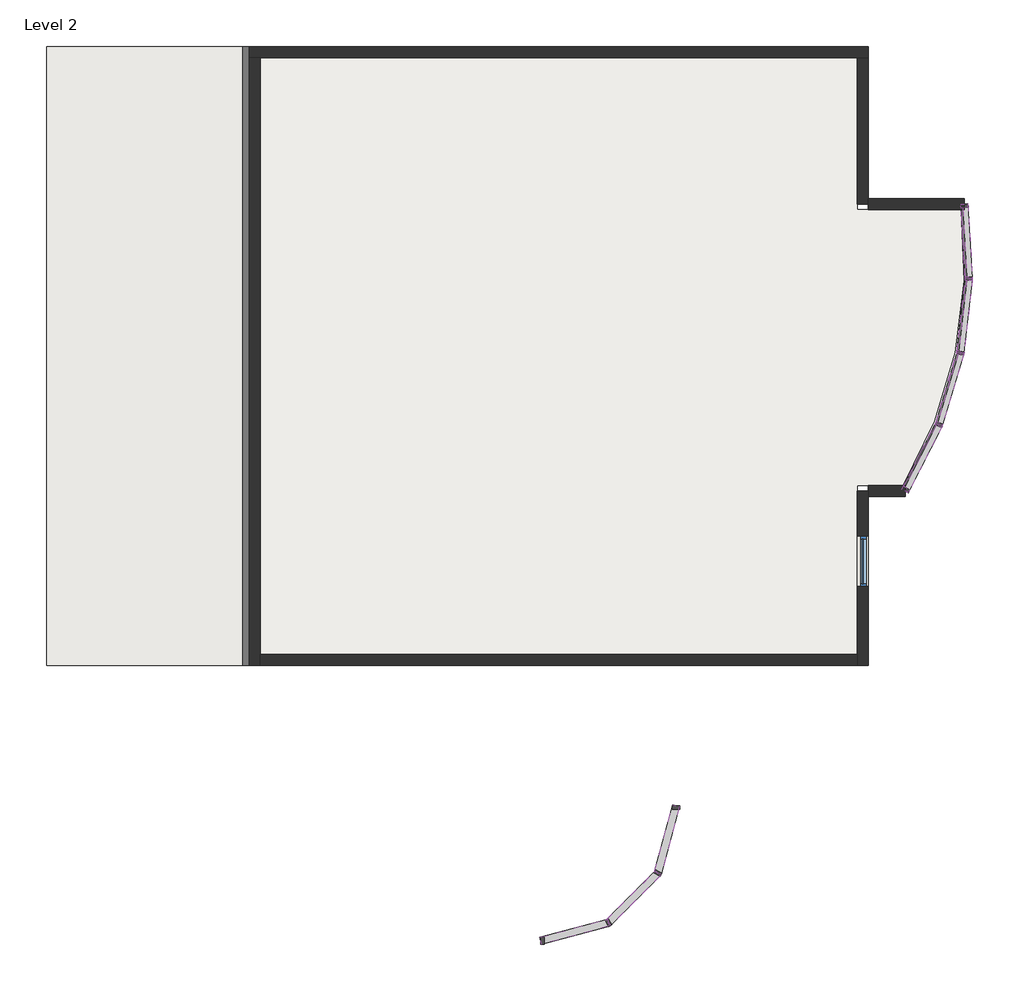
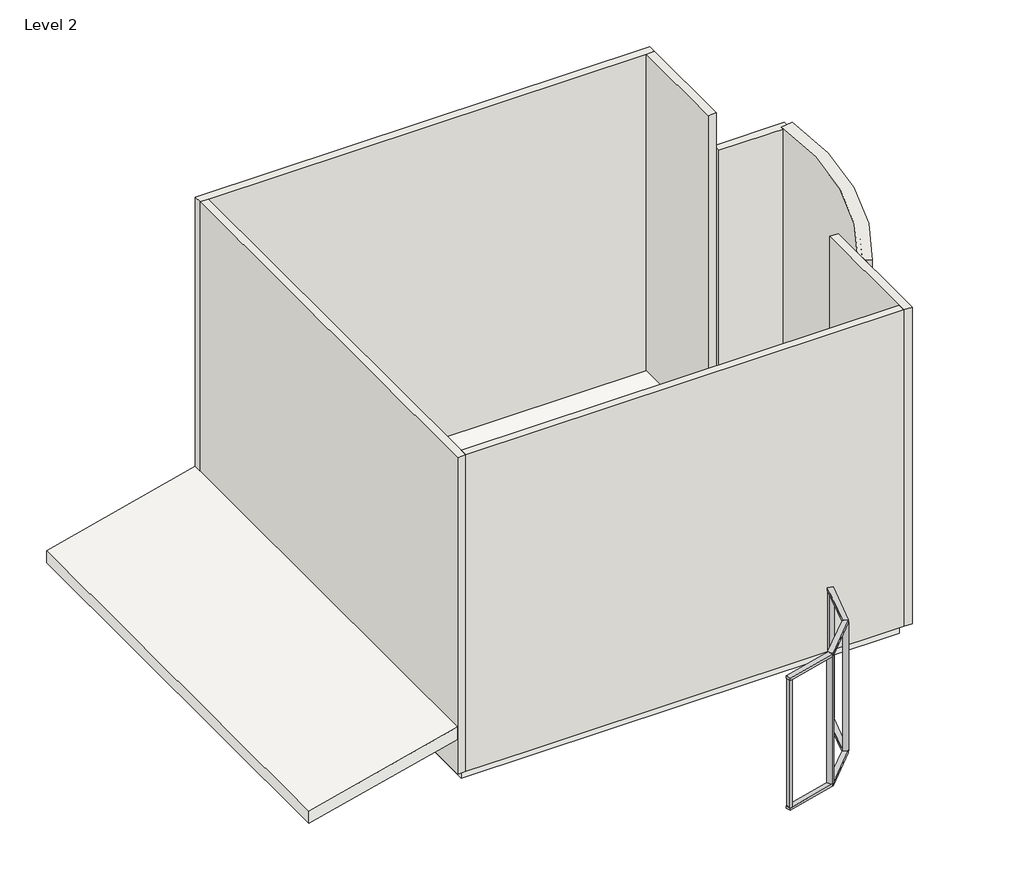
# One storey: 28 members, 12 plates, 8 walls, 1 roof, 1 slab, 1 window.
"""IFC4 building model written with IfcOpenShell, lengths in millimetres."""

from ifc_helpers import new_model, si_unit, point, frame, frame_2d, origin, place, context, project, spatial, polyline, circle_curve, trimmed, segment, composite_curve, outline, extrude, faceted_brep, transform, mapped, element, save
from components import glazed_panel_glazed_panel_96306bcd, glazed_panel_glazed_panel_54592845, glazed_panel_glazed_panel_b55688f1, glazed_panel_glazed_panel_d834ab8b, fixed_552a8660

model = new_model("IFC4")

# Units and contexts
model_context = context("Model", 3, world=origin())
ifc_project = project(units=[si_unit("LENGTHUNIT", "METRE", prefix="MILLI")], contexts=[model_context])

# Site, building, storey
site = spatial("IfcSite", under=ifc_project)
building = spatial("IfcBuilding", under=site)
storey = spatial("IfcBuildingStorey", under=building, Name="Level 2", Elevation=3657.6)

# Members
placement = place(None, origin())
element("IfcMember", 1, ObjectType="Rectangular Mullion1 : 2.5\" x 5\" rectangular", at=placement, inside=storey, context=model_context, shape_type="SweptSolid", body=[
    extrude(outline(polyline([(-113122.4790603, 32641.1481071), (-113245.1516403, 32674.0181259), (-112918.4679848, 33893.2181259), (-112795.7954049, 33860.3481071), (-113122.4790603, 32641.1481071)])), frame((0.0, 0.0, 3916.6696833), z_axis=(0.0, 0.0, 1.0), x_axis=(1.0, 0.0, 0.0)), (0.0, 0.0, 1.0), 63.5),
])
element("IfcMember", 2, ObjectType="Rectangular Mullion1 : 2.5\" x 5\" rectangular", at=placement, inside=storey, context=model_context, shape_type="SweptSolid", body=[
    extrude(outline(polyline([(-114031.4304143, 31720.1654913), (-114121.2329755, 31809.9680525), (-113228.7166309, 32702.4843971), (-113138.9140697, 32612.6818359), (-114031.4304143, 31720.1654913)])), frame((0.0, 0.0, 3916.6696833), z_axis=(0.0, 0.0, 1.0), x_axis=(1.0, 0.0, 0.0)), (0.0, 0.0, 1.0), 63.5),
])
element("IfcMember", 3, ObjectType="Rectangular Mullion1 : 2.5\" x 5\" rectangular", at=placement, inside=storey, context=model_context, shape_type="SweptSolid", body=[
    extrude(outline(polyline([(-115279.0966855, 31377.0468265), (-115311.9667042, 31499.7194065), (-114092.7667042, 31826.4030619), (-114059.8966855, 31703.7304819), (-115279.0966855, 31377.0468265)])), frame((0.0, 0.0, 3916.6696833), z_axis=(0.0, 0.0, 1.0), x_axis=(1.0, 0.0, 0.0)), (0.0, 0.0, 1.0), 63.5),
])
element("IfcMember", 4, ObjectType="Rectangular Mullion1 : 2.5\" x 5\" rectangular", at=placement, inside=storey, context=model_context, shape_type="SweptSolid", body=[
    extrude(outline(polyline([(-113122.4790603, 32641.1481071), (-113245.1516403, 32674.0181259), (-112918.4679848, 33893.2181259), (-112795.7954049, 33860.3481071), (-113122.4790603, 32641.1481071)])), frame((0.0, 0.0, 7294.7440597), z_axis=(0.0, 0.0, 1.0), x_axis=(1.0, 0.0, 0.0)), (0.0, 0.0, 1.0), 63.5),
])
element("IfcMember", 5, ObjectType="Rectangular Mullion1 : 2.5\" x 5\" rectangular", at=placement, inside=storey, context=model_context, shape_type="SweptSolid", body=[
    extrude(outline(polyline([(-114031.4304143, 31720.1654913), (-114121.2329755, 31809.9680525), (-113228.7166309, 32702.4843971), (-113138.9140697, 32612.6818359), (-114031.4304143, 31720.1654913)])), frame((0.0, 0.0, 7294.7440597), z_axis=(0.0, 0.0, 1.0), x_axis=(1.0, 0.0, 0.0)), (0.0, 0.0, 1.0), 63.5),
])
element("IfcMember", 6, ObjectType="Rectangular Mullion1 : 2.5\" x 5\" rectangular", at=placement, inside=storey, context=model_context, shape_type="SweptSolid", body=[
    extrude(outline(polyline([(-115279.0966855, 31377.0468265), (-115311.9667042, 31499.7194065), (-114092.7667042, 31826.4030619), (-114059.8966855, 31703.7304819), (-115279.0966855, 31377.0468265)])), frame((0.0, 0.0, 7294.7440597), z_axis=(0.0, 0.0, 1.0), x_axis=(1.0, 0.0, 0.0)), (0.0, 0.0, 1.0), 63.5),
])
element("IfcMember", 7, ObjectType="Rectangular Mullion1 : 2.5\" x 5\" rectangular", at=placement, inside=storey, context=model_context, shape_type="SweptSolid", body=[
    extrude(outline(polyline([(-112793.6316949, 33813.2831165), (-112920.6316949, 33813.2831165), (-112920.6316949, 33876.7831165), (-112793.6316949, 33876.7831165), (-112793.6316949, 33813.2831165)])), frame((0.0, 0.0, 3980.1696833), z_axis=(0.0, 0.0, 1.0), x_axis=(1.0, 0.0, 0.0)), (0.0, 0.0, 1.0), 3314.5743765),
])
element("IfcMember", 8, ObjectType="Rectangular Mullion1 : 2.5\" x 5\" rectangular", at=placement, inside=storey, context=model_context, shape_type="SweptSolid", body=[
    extrude(outline(polyline([(-113144.6977371, 32598.3368099), (-113254.6829634, 32661.8368099), (-113222.9329634, 32716.8294231), (-113112.9477371, 32653.3294231), (-113144.6977371, 32598.3368099)])), frame((0.0, 0.0, 3980.1696833), z_axis=(0.0, 0.0, 1.0), x_axis=(1.0, 0.0, 0.0)), (0.0, 0.0, 1.0), 3314.5743765),
])
element("IfcMember", 9, ObjectType="Rectangular Mullion1 : 2.5\" x 5\" rectangular", at=placement, inside=storey, context=model_context, shape_type="SweptSolid", body=[
    extrude(outline(polyline([(-114072.0780014, 31694.1991588), (-114135.5780014, 31804.1843851), (-114080.5853883, 31835.9343851), (-114017.0853883, 31725.9491588), (-114072.0780014, 31694.1991588)])), frame((0.0, 0.0, 3980.1696833), z_axis=(0.0, 0.0, 1.0), x_axis=(1.0, 0.0, 0.0)), (0.0, 0.0, 1.0), 3314.5743765),
])
element("IfcMember", 10, ObjectType="Rectangular Mullion1 : 2.5\" x 5\" rectangular", at=placement, inside=storey, context=model_context, shape_type="SweptSolid", body=[
    extrude(outline(polyline([(-115295.5316949, 31374.8831165), (-115295.5316949, 31501.8831165), (-115232.0316949, 31501.8831165), (-115232.0316949, 31374.8831165), (-115295.5316949, 31374.8831165)])), frame((0.0, 0.0, 3980.1696833), z_axis=(0.0, 0.0, 1.0), x_axis=(1.0, 0.0, 0.0)), (0.0, 0.0, 1.0), 3314.5743765),
])
element("IfcMember", 11, ObjectType="Rectangular Mullion1 : 2.5\" x 5\" rectangular", at=placement, inside=storey, context=model_context, shape_type="SweptSolid", body=[
    extrude(outline(polyline([(-108168.5008798, 40790.5335518), (-108055.292729, 40732.9756281), (-108666.7692055, 39530.2894162), (-108779.9773564, 39587.8473399), (-108168.5008798, 40790.5335518)])), frame((0.0, 0.0, 3657.6), z_axis=(0.0, 0.0, 1.0), x_axis=(1.0, 0.0, 0.0)), (0.0, 0.0, 1.0), 63.5),
])
element("IfcMember", 12, ObjectType="Rectangular Mullion1 : 2.5\" x 5\" rectangular", at=placement, inside=storey, context=model_context, shape_type="SweptSolid", body=[
    extrude(outline(polyline([(-107784.1162661, 42072.0788911), (-107662.497725, 42035.5011593), (-108051.0875339, 40743.465724), (-108172.706075, 40780.0434558), (-107784.1162661, 42072.0788911)])), frame((0.0, 0.0, 3657.6), z_axis=(0.0, 0.0, 1.0), x_axis=(1.0, 0.0, 0.0)), (0.0, 0.0, 1.0), 63.5),
])
element("IfcMember", 13, ObjectType="Rectangular Mullion1 : 2.5\" x 5\" rectangular", at=placement, inside=storey, context=model_context, shape_type="SweptSolid", body=[
    extrude(outline(polyline([(-107633.001115, 43401.4675472), (-107506.8245794, 43387.0286456), (-107660.2187278, 42046.5705744), (-107786.3952634, 42061.009476), (-107633.001115, 43401.4675472)])), frame((0.0, 0.0, 3657.6), z_axis=(0.0, 0.0, 1.0), x_axis=(1.0, 0.0, 0.0)), (0.0, 0.0, 1.0), 63.5),
])
element("IfcMember", 14, ObjectType="Rectangular Mullion1 : 2.5\" x 5\" rectangular", at=placement, inside=storey, context=model_context, shape_type="SweptSolid", body=[
    extrude(outline(polyline([(-107719.9421584, 44736.58973), (-107593.2044035, 44744.7470261), (-107506.5439697, 43398.3267444), (-107633.2817247, 43390.1694484), (-107719.9421584, 44736.58973)])), frame((0.0, 0.0, 3657.6), z_axis=(0.0, 0.0, 1.0), x_axis=(1.0, 0.0, 0.0)), (0.0, 0.0, 1.0), 63.5),
])
element("IfcMember", 15, ObjectType="Rectangular Mullion1 : 2.5\" x 5\" rectangular", at=placement, inside=storey, context=model_context, shape_type="SweptSolid", body=[
    extrude(outline(polyline([(-108168.5008798, 40790.5335518), (-108055.292729, 40732.9756281), (-108666.7692055, 39530.2894162), (-108779.9773564, 39587.8473399), (-108168.5008798, 40790.5335518)])), frame((0.0, 0.0, 6064.25), z_axis=(0.0, 0.0, 1.0), x_axis=(1.0, 0.0, 0.0)), (0.0, 0.0, 1.0), 63.5),
])
element("IfcMember", 16, ObjectType="Rectangular Mullion1 : 2.5\" x 5\" rectangular", at=placement, inside=storey, context=model_context, shape_type="SweptSolid", body=[
    extrude(outline(polyline([(-107784.1162661, 42072.0788911), (-107662.497725, 42035.5011593), (-108051.0875339, 40743.465724), (-108172.706075, 40780.0434558), (-107784.1162661, 42072.0788911)])), frame((0.0, 0.0, 6064.25), z_axis=(0.0, 0.0, 1.0), x_axis=(1.0, 0.0, 0.0)), (0.0, 0.0, 1.0), 63.5),
])
element("IfcMember", 17, ObjectType="Rectangular Mullion1 : 2.5\" x 5\" rectangular", at=placement, inside=storey, context=model_context, shape_type="SweptSolid", body=[
    extrude(outline(polyline([(-107633.001115, 43401.4675472), (-107506.8245794, 43387.0286456), (-107660.2187278, 42046.5705744), (-107786.3952634, 42061.009476), (-107633.001115, 43401.4675472)])), frame((0.0, 0.0, 6064.25), z_axis=(0.0, 0.0, 1.0), x_axis=(1.0, 0.0, 0.0)), (0.0, 0.0, 1.0), 63.5),
])
element("IfcMember", 18, ObjectType="Rectangular Mullion1 : 2.5\" x 5\" rectangular", at=placement, inside=storey, context=model_context, shape_type="SweptSolid", body=[
    extrude(outline(polyline([(-107719.9421584, 44736.58973), (-107593.2044035, 44744.7470261), (-107506.5439697, 43398.3267444), (-107633.2817247, 43390.1694484), (-107719.9421584, 44736.58973)])), frame((0.0, 0.0, 6064.25), z_axis=(0.0, 0.0, 1.0), x_axis=(1.0, 0.0, 0.0)), (0.0, 0.0, 1.0), 63.5),
])
element("IfcMember", 19, ObjectType="Rectangular Mullion1 : 2.5\" x 5\" rectangular", at=placement, inside=storey, context=model_context, shape_type="SweptSolid", body=[
    extrude(outline(polyline([(-108743.4898641, 39646.5887933), (-108635.8528657, 39579.1849612), (-108669.5547817, 39525.366462), (-108777.1917802, 39592.7702941), (-108743.4898641, 39646.5887933)])), frame((0.0, 0.0, 3721.1), z_axis=(0.0, 0.0, 1.0), x_axis=(1.0, 0.0, 0.0)), (0.0, 0.0, 1.0), 2343.15),
])
element("IfcMember", 20, ObjectType="Rectangular Mullion1 : 2.5\" x 5\" rectangular", at=placement, inside=storey, context=model_context, shape_type="SweptSolid", body=[
    extrude(outline(polyline([(-108743.4898641, 39646.5887933), (-108635.8528657, 39579.1849612), (-108669.5547817, 39525.366462), (-108777.1917802, 39592.7702941), (-108743.4898641, 39646.5887933)])), frame((0.0, 0.0, 6127.75), z_axis=(0.0, 0.0, 1.0), x_axis=(1.0, 0.0, 0.0)), (0.0, 0.0, 1.0), 2374.9),
])
element("IfcMember", 21, ObjectType="Rectangular Mullion1 : 2.5\" x 5\" rectangular", at=placement, inside=storey, context=model_context, shape_type="SweptSolid", body=[
    extrude(outline(polyline([(-108159.0234898, 40814.8524997), (-108041.1424654, 40767.5971923), (-108064.770119, 40708.6566801), (-108182.6511435, 40755.9119875), (-108159.0234898, 40814.8524997)])), frame((0.0, 0.0, 3721.1), z_axis=(0.0, 0.0, 1.0), x_axis=(1.0, 0.0, 0.0)), (0.0, 0.0, 1.0), 2343.15),
])
element("IfcMember", 22, ObjectType="Rectangular Mullion1 : 2.5\" x 5\" rectangular", at=placement, inside=storey, context=model_context, shape_type="SweptSolid", body=[
    extrude(outline(polyline([(-108159.0234898, 40814.8524997), (-108041.1424654, 40767.5971923), (-108064.770119, 40708.6566801), (-108182.6511435, 40755.9119875), (-108159.0234898, 40814.8524997)])), frame((0.0, 0.0, 6127.75), z_axis=(0.0, 0.0, 1.0), x_axis=(1.0, 0.0, 0.0)), (0.0, 0.0, 1.0), 2374.9),
])
element("IfcMember", 23, ObjectType="Rectangular Mullion1 : 2.5\" x 5\" rectangular", at=placement, inside=storey, context=model_context, shape_type="SweptSolid", body=[
    extrude(outline(polyline([(-107779.1000376, 42097.6927468), (-107654.7089931, 42072.0828258), (-107667.5139536, 42009.8873036), (-107791.9049981, 42035.4972245), (-107779.1000376, 42097.6927468)])), frame((0.0, 0.0, 3721.1), z_axis=(0.0, 0.0, 1.0), x_axis=(1.0, 0.0, 0.0)), (0.0, 0.0, 1.0), 2343.15),
])
element("IfcMember", 24, ObjectType="Rectangular Mullion1 : 2.5\" x 5\" rectangular", at=placement, inside=storey, context=model_context, shape_type="SweptSolid", body=[
    extrude(outline(polyline([(-107779.1000376, 42097.6927468), (-107654.7089931, 42072.0828258), (-107667.5139536, 42009.8873036), (-107791.9049981, 42035.4972245), (-107779.1000376, 42097.6927468)])), frame((0.0, 0.0, 6127.75), z_axis=(0.0, 0.0, 1.0), x_axis=(1.0, 0.0, 0.0)), (0.0, 0.0, 1.0), 2374.9),
])
element("IfcMember", 25, ObjectType="Rectangular Mullion1 : 2.5\" x 5\" rectangular", at=placement, inside=storey, context=model_context, shape_type="SweptSolid", body=[
    extrude(outline(polyline([(-107632.6049423, 43427.5649647), (-107505.6440955, 43424.4116515), (-107507.2207521, 43360.9312281), (-107634.1815989, 43364.0845413), (-107632.6049423, 43427.5649647)])), frame((0.0, 0.0, 3721.1), z_axis=(0.0, 0.0, 1.0), x_axis=(1.0, 0.0, 0.0)), (0.0, 0.0, 1.0), 2343.15),
])
element("IfcMember", 26, ObjectType="Rectangular Mullion1 : 2.5\" x 5\" rectangular", at=placement, inside=storey, context=model_context, shape_type="SweptSolid", body=[
    extrude(outline(polyline([(-107632.6049423, 43427.5649647), (-107505.6440955, 43424.4116515), (-107507.2207521, 43360.9312281), (-107634.1815989, 43364.0845413), (-107632.6049423, 43427.5649647)])), frame((0.0, 0.0, 6127.75), z_axis=(0.0, 0.0, 1.0), x_axis=(1.0, 0.0, 0.0)), (0.0, 0.0, 1.0), 2374.9),
])
element("IfcMember", 27, ObjectType="Rectangular Mullion1 : 2.5\" x 5\" rectangular", at=placement, inside=storey, context=model_context, shape_type="SweptSolid", body=[
    extrude(outline(polyline([(-107719.327796, 44730.9667885), (-107593.8187659, 44750.3699676), (-107584.1171763, 44687.6154525), (-107709.6262065, 44668.2122734), (-107719.327796, 44730.9667885)])), frame((0.0, 0.0, 3721.1), z_axis=(0.0, 0.0, 1.0), x_axis=(1.0, 0.0, 0.0)), (0.0, 0.0, 1.0), 2343.15),
])
element("IfcMember", 28, ObjectType="Rectangular Mullion1 : 2.5\" x 5\" rectangular", at=placement, inside=storey, context=model_context, shape_type="SweptSolid", body=[
    extrude(outline(polyline([(-107719.327796, 44730.9667885), (-107593.8187659, 44750.3699676), (-107584.1171763, 44687.6154525), (-107709.6262065, 44668.2122734), (-107719.327796, 44730.9667885)])), frame((0.0, 0.0, 6127.75), z_axis=(0.0, 0.0, 1.0), x_axis=(1.0, 0.0, 0.0)), (0.0, 0.0, 1.0), 2374.9),
])

# Plates
glazed_panel_glazed_panel_shape = glazed_panel_glazed_panel_96306bcd(model_context)
element("IfcPlate", 29, ObjectType="Glazed Panel : Glazed Panel", at=placement, inside=storey, context=model_context, shape_type="MappedRepresentation", body=[
    mapped(glazed_panel_glazed_panel_shape, transform((-108406.8345595, 40172.6685523, 3721.1), x_axis=(0.4513442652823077, 0.8923499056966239, 0.0), y_axis=(-0.8923499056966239, 0.4513442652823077, 0.0), z_axis=(0.0, 0.0, 1.0))),
])
element("IfcPlate", 30, ObjectType="Glazed Panel : Glazed Panel", at=placement, inside=storey, context=model_context, shape_type="MappedRepresentation", body=[
    mapped(glazed_panel_glazed_panel_shape, transform((-107608.1627568, 44051.9315944, 3721.1), x_axis=(-0.062140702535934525, 0.9980673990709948, 0.0), y_axis=(-0.9980673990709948, -0.062140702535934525, 0.0), z_axis=(0.0, 0.0, 1.0))),
])
element("IfcPlate", 31, ObjectType="Glazed Panel : Glazed Panel", at=placement, inside=storey, context=model_context, shape_type="MappedRepresentation", body=[
    mapped(glazed_panel_glazed_panel_shape, transform((-108406.8345595, 40172.6685523, 8566.15), x_axis=(0.4513442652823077, 0.8923499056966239, 0.0), y_axis=(-0.8923499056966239, 0.4513442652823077, 0.0), z_axis=(0.0, 0.0, 1.0))),
])
element("IfcPlate", 32, ObjectType="Glazed Panel : Glazed Panel", at=placement, inside=storey, context=model_context, shape_type="MappedRepresentation", body=[
    mapped(glazed_panel_glazed_panel_shape, transform((-107608.1627568, 44051.9315944, 8566.15), x_axis=(-0.062140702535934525, 0.9980673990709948, 0.0), y_axis=(-0.9980673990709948, -0.062140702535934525, 0.0), z_axis=(0.0, 0.0, 1.0))),
])
glazed_panel_glazed_panel_2_shape = glazed_panel_glazed_panel_54592845(model_context)
element("IfcPlate", 33, ObjectType="Glazed Panel : Glazed Panel", at=placement, inside=storey, context=model_context, shape_type="MappedRepresentation", body=[
    mapped(glazed_panel_glazed_panel_2_shape, transform((-107643.8686407, 42723.7053648, 3721.1), x_axis=(0.11369213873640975, 0.9935160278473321, 0.0), y_axis=(-0.9935160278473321, 0.11369213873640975, 0.0), z_axis=(0.0, 0.0, 1.0))),
])
element("IfcPlate", 34, ObjectType="Glazed Panel : Glazed Panel", at=placement, inside=storey, context=model_context, shape_type="MappedRepresentation", body=[
    mapped(glazed_panel_glazed_panel_2_shape, transform((-107914.9596452, 41406.9776287, 3721.1), x_axis=(0.2880136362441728, 0.9576263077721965, 0.0), y_axis=(-0.9576263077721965, 0.2880136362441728, 0.0), z_axis=(0.0, 0.0, 1.0))),
])
element("IfcPlate", 35, ObjectType="Glazed Panel : Glazed Panel", at=placement, inside=storey, context=model_context, shape_type="MappedRepresentation", body=[
    mapped(glazed_panel_glazed_panel_2_shape, transform((-107914.9596452, 41406.9776287, 8566.15), x_axis=(0.2880136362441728, 0.9576263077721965, 0.0), y_axis=(-0.9576263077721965, 0.2880136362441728, 0.0), z_axis=(0.0, 0.0, 1.0))),
])
element("IfcPlate", 36, ObjectType="Glazed Panel : Glazed Panel", at=placement, inside=storey, context=model_context, shape_type="MappedRepresentation", body=[
    mapped(glazed_panel_glazed_panel_2_shape, transform((-107643.8686407, 42723.7053648, 8566.15), x_axis=(0.11369213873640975, 0.9935160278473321, 0.0), y_axis=(-0.9935160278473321, 0.11369213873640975, 0.0), z_axis=(0.0, 0.0, 1.0))),
])
glazed_panel_glazed_panel_3_shape = glazed_panel_glazed_panel_b55688f1(model_context)
element("IfcPlate", 37, ObjectType="Glazed Panel : Glazed Panel", at=placement, inside=storey, context=model_context, shape_type="MappedRepresentation", body=[
    mapped(glazed_panel_glazed_panel_3_shape, transform((-108406.8345595, 40172.6685523, 6127.75), x_axis=(0.4513442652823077, 0.8923499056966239, 0.0), y_axis=(-0.8923499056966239, 0.4513442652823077, 0.0), z_axis=(0.0, 0.0, 1.0))),
])
element("IfcPlate", 38, ObjectType="Glazed Panel : Glazed Panel", at=placement, inside=storey, context=model_context, shape_type="MappedRepresentation", body=[
    mapped(glazed_panel_glazed_panel_3_shape, transform((-107608.1627568, 44051.9315944, 6127.75), x_axis=(-0.062140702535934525, 0.9980673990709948, 0.0), y_axis=(-0.9980673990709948, -0.062140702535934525, 0.0), z_axis=(0.0, 0.0, 1.0))),
])
glazed_panel_glazed_panel_4_shape = glazed_panel_glazed_panel_d834ab8b(model_context)
element("IfcPlate", 39, ObjectType="Glazed Panel : Glazed Panel", at=placement, inside=storey, context=model_context, shape_type="MappedRepresentation", body=[
    mapped(glazed_panel_glazed_panel_4_shape, transform((-107914.9596452, 41406.9776287, 6127.75), x_axis=(0.2880136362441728, 0.9576263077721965, 0.0), y_axis=(-0.9576263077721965, 0.2880136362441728, 0.0), z_axis=(0.0, 0.0, 1.0))),
])
element("IfcPlate", 40, ObjectType="Glazed Panel : Glazed Panel", at=placement, inside=storey, context=model_context, shape_type="MappedRepresentation", body=[
    mapped(glazed_panel_glazed_panel_4_shape, transform((-107643.8686407, 42723.7053648, 6127.75), x_axis=(0.11369213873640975, 0.9935160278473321, 0.0), y_axis=(-0.9935160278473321, 0.11369213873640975, 0.0), z_axis=(0.0, 0.0, 1.0))),
])

# Roof
element("IfcRoof", 41, ObjectType="Generic - 12\"", at=placement, inside=storey, context=model_context, shape_type="SweptSolid", body=[
    extrude(outline(polyline([(4886.1806487, -120559.773281), (3971.7806487, -124217.373281), (3657.6, -124217.373281), (4572.0, -120559.773281), (4886.1806487, -120559.773281)])), frame((0.0, 36409.4683781, 0.0), z_axis=(0.0, 1.0, 0.0), x_axis=(0.0, 0.0, 1.0)), (0.0, 0.0, 1.0), 11176.0),
])

# Slab
element("IfcSlab", 42, ObjectType="Floor 1", at=placement, inside=storey, context=model_context, shape_type="SweptSolid", body=[
    extrude(outline(composite_curve([segment(polyline([(-120356.573281, 47382.2683781), (-109586.973281, 47382.2683781), (-109586.973281, 44639.0683781), (-107719.279531, 44639.0683781)]), True, "CONTINUOUS"), segment(trimmed(circle_curve(frame_2d((-115441.7498565, 43659.5562458)), 7784.3427434), [point((-107719.279531, 44639.0683781))], [point((-108763.060781, 39660.6683781))], False, "CARTESIAN"), True, "CONTINUOUS"), segment(polyline([(-108763.060781, 39660.6683781), (-109586.973281, 39660.6683781), (-109586.973281, 36612.6683781), (-120356.573281, 36612.6683781), (-120356.573281, 47382.2683781)]), True, "CONTINUOUS")], self_intersect=False)), frame((0.0, 0.0, 3352.8), z_axis=(0.0, 0.0, 1.0), x_axis=(1.0, 0.0, 0.0)), (0.0, 0.0, 1.0), 304.8),
])

# Walls
element("IfcWall", 43, ObjectType="8\" Exterior", at=placement, inside=storey, context=model_context, shape_type="Brep", body=[
    faceted_brep([(-120559.773281, 47382.2683781, 3657.6), (-120356.573281, 47382.2683781, 3657.6), (-109586.973281, 47382.2683781, 3657.6), (-109383.773281, 47382.2683781, 3657.6), (-109383.773281, 47382.2683781, 11887.2), (-109586.973281, 47382.2683781, 11887.2), (-120356.573281, 47382.2683781, 11887.2), (-120559.773281, 47382.2683781, 11887.2), (-120559.773281, 47382.2683781, 4572.0), (-120559.773281, 47585.4683781, 3657.6), (-120559.773281, 47585.4683781, 4572.0), (-120559.773281, 47585.4683781, 11887.2), (-109383.773281, 47585.4683781, 11887.2), (-109383.773281, 47585.4683781, 3657.6), (-109586.973281, 47585.4683781, 3657.6)], [[[0, 1, 2, 3, 4, 5, 6, 7, 8]], [[9, 10, 11, 12, 13, 14]], [[3, 2, 1, 0, 9, 14, 13]], [[7, 6, 5, 4, 12, 11]], [[0, 8, 7, 11, 10, 9]], [[4, 3, 13, 12]]]),
])
element("IfcWall", 44, ObjectType="8\" Exterior", at=placement, inside=storey, context=model_context, shape_type="Brep", body=[
    faceted_brep([(-120356.573281, 36409.4683781, 3657.6), (-120356.573281, 36612.6683781, 3657.6), (-120356.573281, 47382.2683781, 3657.6), (-120356.573281, 47382.2683781, 11887.2), (-120356.573281, 36612.6683781, 11887.2), (-120356.573281, 36409.4683781, 11887.2), (-120559.773281, 36409.4683781, 3657.6), (-120559.773281, 36409.4683781, 11887.2), (-120559.773281, 47382.2683781, 11887.2), (-120559.773281, 47382.2683781, 3657.6)], [[[0, 1, 2, 3, 4, 5]], [[6, 7, 8, 9]], [[2, 1, 0, 6, 9]], [[5, 4, 3, 8, 7]], [[0, 5, 7, 6]], [[3, 2, 9, 8]]]),
])
element("IfcWall", 45, ObjectType="8\" Exterior", at=placement, inside=storey, context=model_context, shape_type="Brep", body=[
    faceted_brep([(-109586.973281, 36612.6683781, 3657.6), (-114330.3316949, 36612.6683781, 3657.6), (-118851.5316949, 36612.6683781, 3657.6), (-120356.573281, 36612.6683781, 3657.6), (-120356.573281, 36612.6683781, 11887.2), (-109586.973281, 36612.6683781, 11887.2), (-109586.973281, 36409.4683781, 3657.6), (-109586.973281, 36409.4683781, 11887.2), (-120356.573281, 36409.4683781, 11887.2), (-120356.573281, 36409.4683781, 3657.6), (-118851.5316949, 36409.4683781, 3657.6), (-114330.3316949, 36409.4683781, 3657.6)], [[[0, 1, 2, 3, 4, 5]], [[6, 7, 8, 9, 10, 11]], [[3, 2, 1, 0, 6, 11, 10, 9]], [[5, 4, 8, 7]], [[0, 5, 7, 6]], [[4, 3, 9, 8]]]),
])
element("IfcWall", 46, ObjectType="8\" Exterior", at=placement, inside=storey, context=model_context, shape_type="Brep", body=[
    faceted_brep([(-109586.973281, 47382.2683781, 3657.6), (-109586.973281, 44740.6683781, 3657.6), (-109586.973281, 44740.6683781, 10972.8), (-109586.973281, 44740.6683781, 11887.2), (-109586.973281, 47382.2683781, 11887.2), (-109383.773281, 47382.2683781, 3657.6), (-109383.773281, 47382.2683781, 11887.2), (-109383.773281, 44740.6683781, 11887.2), (-109383.773281, 44740.6683781, 10972.8), (-109383.773281, 44740.6683781, 3657.6), (-109383.773281, 44842.2683781, 3657.6)], [[[0, 1, 2, 3, 4]], [[5, 6, 7, 8, 9, 10]], [[1, 0, 5, 10, 9]], [[3, 2, 1, 9, 8, 7]], [[4, 3, 7, 6]], [[0, 4, 6, 5]]]),
])
element("IfcWall", 47, ObjectType="8\" Exterior", at=placement, inside=storey, context=model_context, shape_type="Brep", body=[
    faceted_brep([(-109586.973281, 39559.0683781, 3657.6), (-109586.973281, 36612.6683781, 3657.6), (-109586.973281, 36409.4683781, 3657.6), (-109586.973281, 36409.4683781, 11887.2), (-109586.973281, 36612.6683781, 11887.2), (-109586.973281, 39559.0683781, 11887.2), (-109586.973281, 39559.0683781, 10972.8), (-109586.973281, 37831.8683781, 5791.2), (-109586.973281, 37831.8683781, 4572.0), (-109586.973281, 38746.2683781, 4572.0), (-109586.973281, 38746.2683781, 5791.2), (-109586.973281, 37831.8683781, 9448.8), (-109586.973281, 37831.8683781, 8229.6), (-109586.973281, 38746.2683781, 8229.6), (-109586.973281, 38746.2683781, 9448.8), (-109383.773281, 39559.0683781, 3657.6), (-109383.773281, 39559.0683781, 10972.8), (-109383.773281, 39559.0683781, 11887.2), (-109383.773281, 36409.4683781, 11887.2), (-109383.773281, 36409.4683781, 3657.6), (-109383.773281, 39457.4683781, 3657.6), (-109383.773281, 37831.8683781, 5791.2), (-109383.773281, 38746.2683781, 5791.2), (-109383.773281, 38746.2683781, 4572.0), (-109383.773281, 37831.8683781, 4572.0), (-109383.773281, 37831.8683781, 9448.8), (-109383.773281, 38746.2683781, 9448.8), (-109383.773281, 38746.2683781, 8229.6), (-109383.773281, 37831.8683781, 8229.6)], [[[0, 1, 2, 3, 4, 5, 6], [7, 8, 9, 10], [11, 12, 13, 14]], [[15, 16, 17, 18, 19, 20], [21, 22, 23, 24], [25, 26, 27, 28]], [[2, 1, 0, 15, 20, 19]], [[5, 4, 3, 18, 17]], [[0, 6, 5, 17, 16, 15]], [[3, 2, 19, 18]], [[8, 7, 21, 24]], [[9, 8, 24, 23]], [[10, 9, 23, 22]], [[7, 10, 22, 21]], [[12, 11, 25, 28]], [[13, 12, 28, 27]], [[14, 13, 27, 26]], [[11, 14, 26, 25]]]),
])
element("IfcWall", 48, ObjectType="8\" Exterior", at=placement, inside=storey, context=model_context, shape_type="Brep", body=[
    faceted_brep([(-109383.773281, 39457.4683781, 3657.6), (-108723.373281, 39457.4683781, 3657.6), (-108723.373281, 39457.4683781, 10972.8), (-109383.773281, 39457.4683781, 10972.8), (-109383.773281, 39660.6683781, 3657.6), (-109383.773281, 39660.6683781, 10972.8), (-108723.373281, 39660.6683781, 10972.8), (-108723.373281, 39660.6683781, 3657.6), (-109383.773281, 39559.0683781, 3657.6)], [[[0, 1, 2, 3]], [[4, 5, 6, 7]], [[1, 0, 8, 4, 7]], [[2, 1, 7, 6]], [[3, 2, 6, 5]], [[0, 3, 5, 4, 8]]]),
])
element("IfcWall", 49, ObjectType="8\" Exterior", at=placement, inside=storey, context=model_context, shape_type="Brep", body=[
    faceted_brep([(-109383.773281, 44639.0683781, 3657.6), (-107656.573281, 44639.0683781, 3657.6), (-107656.573281, 44639.0683781, 10972.8), (-109383.773281, 44639.0683781, 10972.8), (-109383.773281, 44842.2683781, 3657.6), (-109383.773281, 44842.2683781, 10972.8), (-107656.573281, 44842.2683781, 10972.8), (-107656.573281, 44842.2683781, 3657.6), (-109383.773281, 44740.6683781, 3657.6)], [[[0, 1, 2, 3]], [[4, 5, 6, 7]], [[1, 0, 8, 4, 7]], [[2, 1, 7, 6]], [[3, 2, 6, 5]], [[0, 3, 5, 4, 8]]]),
])
element("IfcWall", 50, ObjectType="Curtain Wall 1", at=placement, inside=storey, context=model_context, shape_type="SweptSolid", body=[
    extrude(outline(composite_curve([segment(polyline([(-107807.1841171, 44717.3845631), (-107505.9624448, 44763.952193)]), True, "CONTINUOUS"), segment(trimmed(circle_curve(frame_2d((-115148.3367002, 43582.4726114)), 7733.1609488), [point((-107505.9624448, 44763.952193))], [point((-108594.2088829, 39478.1837796))], False, "CARTESIAN"), True, "CONTINUOUS"), segment(polyline([(-108594.2088829, 39478.1837796), (-108852.537679, 39639.9529765)]), True, "CONTINUOUS"), segment(trimmed(circle_curve(frame_2d((-115148.3367002, 43582.4726114)), 7428.3609488), [point((-108852.537679, 39639.9529765))], [point((-107807.1841171, 44717.3845631))], True, "CARTESIAN"), True, "CONTINUOUS")], self_intersect=False)), frame((0.0, 0.0, 3657.6), z_axis=(0.0, 0.0, 1.0), x_axis=(1.0, 0.0, 0.0)), (0.0, 0.0, 1.0), 7315.2),
])

# Window
fixed_shape = fixed_552a8660(model_context)
element("IfcWindow", 51, ObjectType="fixed : 36\"w x 48\"h", at=placement, inside=storey, context=model_context, shape_type="MappedRepresentation", body=[
    mapped(fixed_shape, transform((-109485.373281, 38289.0683781, 3657.6), x_axis=(0.0, -1.0, 0.0), y_axis=(1.0, 0.0, 0.0), z_axis=(0.0, 0.0, 1.0))),
])

save(model, "model.ifc")
